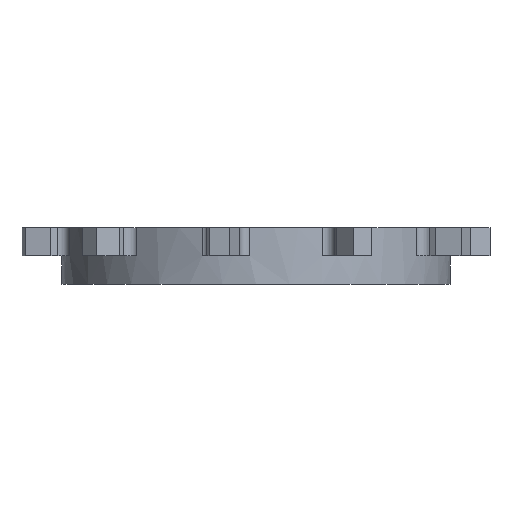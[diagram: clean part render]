
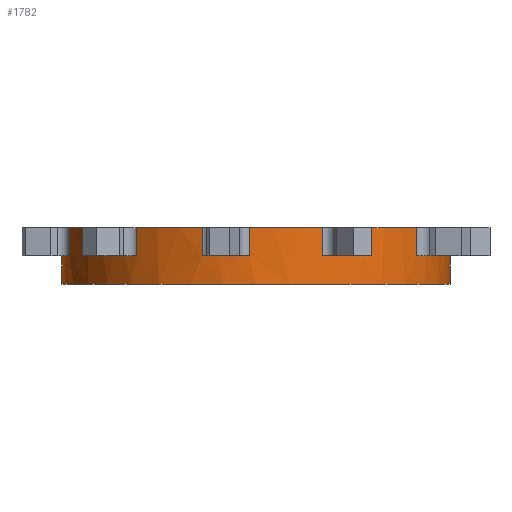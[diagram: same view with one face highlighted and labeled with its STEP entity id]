
A CAD part, front view. The second image highlights one B-rep face of the part: STEP entity #1782.
In plain terms, the highlighted cylindrical face has radius 69.987 mm (diameter 139.973 mm), a partial arc.
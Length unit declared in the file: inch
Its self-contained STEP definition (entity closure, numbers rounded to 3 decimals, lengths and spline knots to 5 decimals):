
#126=CARTESIAN_POINT('',(0.,0.,0.0025));
#127=DIRECTION('',(0.,0.,1.));
#128=DIRECTION('',(-0.788,-0.615,0.));
#129=AXIS2_PLACEMENT_3D('',#126,#127,#128);
#151=CARTESIAN_POINT('',(0.,0.,0.0025));
#152=DIRECTION('',(0.,0.,1.));
#153=DIRECTION('',(0.342,-0.94,0.));
#154=AXIS2_PLACEMENT_3D('',#151,#152,#153);
#176=CARTESIAN_POINT('',(0.,0.,0.0025));
#177=DIRECTION('',(0.,0.,1.));
#178=DIRECTION('',(0.829,-0.559,0.));
#179=AXIS2_PLACEMENT_3D('',#176,#177,#178);
#201=CARTESIAN_POINT('',(0.,0.,0.0025));
#202=DIRECTION('',(0.,0.,1.));
#203=DIRECTION('',(-0.276,-0.961,0.));
#204=AXIS2_PLACEMENT_3D('',#201,#202,#203);
#226=CARTESIAN_POINT('',(0.,0.,0.0025));
#227=DIRECTION('',(0.,0.,1.));
#228=DIRECTION('',(-0.999,-0.035,0.));
#229=AXIS2_PLACEMENT_3D('',#226,#227,#228);
#251=CARTESIAN_POINT('',(0.,0.,0.0025));
#252=DIRECTION('',(0.,0.,-1.));
#253=DIRECTION('',(1.,0.,0.));
#254=AXIS2_PLACEMENT_3D('',#251,#252,#253);
#286=CARTESIAN_POINT('',(0.,0.,0.0025));
#287=DIRECTION('',(0.,0.,1.));
#288=DIRECTION('',(-1.,0.,0.));
#289=AXIS2_PLACEMENT_3D('',#286,#287,#288);
#291=DIRECTION('',(0.,0.,-1.));
#292=VECTOR('',#291,0.405);
#293=CARTESIAN_POINT('',(2.75538,0.,0.0025));
#294=LINE('',#293,#292);
#295=DIRECTION('',(0.,0.,1.));
#296=VECTOR('',#295,0.405);
#297=CARTESIAN_POINT('',(-2.75538,0.,-0.4025));
#298=LINE('',#297,#296);
#299=CARTESIAN_POINT('',(0.,0.,0.4025));
#300=DIRECTION('',(0.,0.,1.));
#301=DIRECTION('',(-0.961,-0.276,0.));
#302=AXIS2_PLACEMENT_3D('',#299,#300,#301);
#304=CARTESIAN_POINT('',(0.,0.,0.4025));
#305=DIRECTION('',(0.,0.,1.));
#306=DIRECTION('',(-0.615,-0.788,0.));
#307=AXIS2_PLACEMENT_3D('',#304,#305,#306);
#309=CARTESIAN_POINT('',(0.,0.,0.4025));
#310=DIRECTION('',(0.,0.,1.));
#311=DIRECTION('',(-0.035,-0.999,0.));
#312=AXIS2_PLACEMENT_3D('',#309,#310,#311);
#314=CARTESIAN_POINT('',(0.,0.,0.4025));
#315=DIRECTION('',(0.,0.,1.));
#316=DIRECTION('',(0.559,-0.829,0.));
#317=AXIS2_PLACEMENT_3D('',#314,#315,#316);
#324=CARTESIAN_POINT('',(0.,0.,-0.4025));
#325=DIRECTION('',(0.,0.,1.));
#326=DIRECTION('',(-1.,0.,0.));
#327=AXIS2_PLACEMENT_3D('',#324,#325,#326);
#712=DIRECTION('',(0.,0.,-1.));
#713=VECTOR('',#712,0.4);
#714=CARTESIAN_POINT('',(2.28394,-1.54134,0.4025));
#715=LINE('',#714,#713);
#739=DIRECTION('',(0.,0.,-1.));
#740=VECTOR('',#739,0.4);
#741=CARTESIAN_POINT('',(1.54134,-2.28394,0.4025));
#742=LINE('',#741,#740);
#764=DIRECTION('',(0.,0.,-1.));
#765=VECTOR('',#764,0.4);
#766=CARTESIAN_POINT('',(0.94177,-2.58944,0.4025));
#767=LINE('',#766,#765);
#791=DIRECTION('',(0.,0.,-1.));
#792=VECTOR('',#791,0.4);
#793=CARTESIAN_POINT('',(-0.09549,-2.75372,0.4025));
#794=LINE('',#793,#792);
#816=DIRECTION('',(0.,0.,-1.));
#817=VECTOR('',#816,0.4);
#818=CARTESIAN_POINT('',(-0.76013,-2.64846,0.4025));
#819=LINE('',#818,#817);
#843=DIRECTION('',(0.,0.,-1.));
#844=VECTOR('',#843,0.4);
#845=CARTESIAN_POINT('',(-1.69585,-2.17168,0.4025));
#846=LINE('',#845,#844);
#868=DIRECTION('',(0.,0.,-1.));
#869=VECTOR('',#868,0.4);
#870=CARTESIAN_POINT('',(-2.17168,-1.69585,0.4025));
#871=LINE('',#870,#869);
#895=DIRECTION('',(0.,0.,-1.));
#896=VECTOR('',#895,0.4);
#897=CARTESIAN_POINT('',(-2.64846,-0.76013,0.4025));
#898=LINE('',#897,#896);
#1161=CARTESIAN_POINT('',(-2.75538,0.,0.0025));
#1162=CARTESIAN_POINT('',(-2.75372,-0.09549,0.0025));
#1163=VERTEX_POINT('',#1161);
#1164=VERTEX_POINT('',#1162);
#1165=CARTESIAN_POINT('',(-2.17168,-1.69585,0.0025));
#1166=CARTESIAN_POINT('',(-1.69585,-2.17168,0.0025));
#1167=VERTEX_POINT('',#1165);
#1168=VERTEX_POINT('',#1166);
#1169=CARTESIAN_POINT('',(0.94177,-2.58944,0.0025));
#1170=CARTESIAN_POINT('',(1.54134,-2.28394,0.0025));
#1171=VERTEX_POINT('',#1169);
#1172=VERTEX_POINT('',#1170);
#1173=CARTESIAN_POINT('',(2.28394,-1.54134,0.0025));
#1174=CARTESIAN_POINT('',(2.58944,-0.94177,0.0025));
#1175=VERTEX_POINT('',#1173);
#1176=VERTEX_POINT('',#1174);
#1177=CARTESIAN_POINT('',(-0.76013,-2.64846,0.0025));
#1178=CARTESIAN_POINT('',(-0.09549,-2.75372,0.0025));
#1179=VERTEX_POINT('',#1177);
#1180=VERTEX_POINT('',#1178);
#1181=CARTESIAN_POINT('',(-2.64846,-0.76013,0.0025));
#1182=VERTEX_POINT('',#1181);
#1183=CARTESIAN_POINT('',(2.75538,0.,0.0025));
#1184=VERTEX_POINT('',#1183);
#1221=CARTESIAN_POINT('',(2.75538,0.,-0.4025));
#1222=CARTESIAN_POINT('',(-2.75538,0.,-0.4025));
#1223=VERTEX_POINT('',#1221);
#1224=VERTEX_POINT('',#1222);
#1245=CARTESIAN_POINT('',(-2.64846,-0.76013,0.4025));
#1246=VERTEX_POINT('',#1245);
#1253=CARTESIAN_POINT('',(-1.69585,-2.17168,0.4025));
#1254=VERTEX_POINT('',#1253);
#1255=CARTESIAN_POINT('',(-2.17168,-1.69585,0.4025));
#1256=VERTEX_POINT('',#1255);
#1261=CARTESIAN_POINT('',(-0.09549,-2.75372,0.4025));
#1262=VERTEX_POINT('',#1261);
#1263=CARTESIAN_POINT('',(-0.76013,-2.64846,0.4025));
#1264=VERTEX_POINT('',#1263);
#1269=CARTESIAN_POINT('',(1.54134,-2.28394,0.4025));
#1270=VERTEX_POINT('',#1269);
#1271=CARTESIAN_POINT('',(0.94177,-2.58944,0.4025));
#1272=VERTEX_POINT('',#1271);
#1279=CARTESIAN_POINT('',(2.28394,-1.54134,0.4025));
#1280=VERTEX_POINT('',#1279);
#1740=CARTESIAN_POINT('',(0.,0.,-0.0025));
#1741=DIRECTION('',(0.,0.,1.));
#1742=DIRECTION('',(1.,0.,0.));
#1743=AXIS2_PLACEMENT_3D('',#1740,#1741,#1742);
#1744=CYLINDRICAL_SURFACE('',#1743,2.75538);
#1745=ORIENTED_EDGE('',*,*,#1690,.T.);
#1747=ORIENTED_EDGE('',*,*,#1746,.F.);
#1748=ORIENTED_EDGE('',*,*,#1686,.T.);
#1749=ORIENTED_EDGE('',*,*,#1735,.T.);
#1750=ORIENTED_EDGE('',*,*,#1662,.T.);
#1752=ORIENTED_EDGE('',*,*,#1751,.F.);
#1754=ORIENTED_EDGE('',*,*,#1753,.T.);
#1756=ORIENTED_EDGE('',*,*,#1755,.T.);
#1757=ORIENTED_EDGE('',*,*,#1566,.T.);
#1759=ORIENTED_EDGE('',*,*,#1758,.F.);
#1761=ORIENTED_EDGE('',*,*,#1760,.T.);
#1763=ORIENTED_EDGE('',*,*,#1762,.T.);
#1764=ORIENTED_EDGE('',*,*,#1638,.T.);
#1766=ORIENTED_EDGE('',*,*,#1765,.F.);
#1768=ORIENTED_EDGE('',*,*,#1767,.T.);
#1770=ORIENTED_EDGE('',*,*,#1769,.T.);
#1771=ORIENTED_EDGE('',*,*,#1590,.T.);
#1773=ORIENTED_EDGE('',*,*,#1772,.F.);
#1775=ORIENTED_EDGE('',*,*,#1774,.T.);
#1777=ORIENTED_EDGE('',*,*,#1776,.T.);
#1778=ORIENTED_EDGE('',*,*,#1614,.T.);
#1779=ORIENTED_EDGE('',*,*,#1692,.F.);
#1780=EDGE_LOOP('',(#1745,#1747,#1748,#1749,#1750,#1752,#1754,#1756,#1757,#1759,
#1761,#1763,#1764,#1766,#1768,#1770,#1771,#1773,#1775,#1777,#1778,#1779));
#1781=FACE_OUTER_BOUND('',#1780,.F.);
#1782=ADVANCED_FACE('',(#1781),#1744,.T.);
#130=CIRCLE('',#129,2.75538);
#155=CIRCLE('',#154,2.75538);
#180=CIRCLE('',#179,2.75538);
#205=CIRCLE('',#204,2.75538);
#230=CIRCLE('',#229,2.75538);
#255=CIRCLE('',#254,2.75538);
#290=CIRCLE('',#289,2.75538);
#303=CIRCLE('',#302,2.75538);
#308=CIRCLE('',#307,2.75538);
#313=CIRCLE('',#312,2.75538);
#318=CIRCLE('',#317,2.75538);
#328=CIRCLE('',#327,2.75538);
#1566=EDGE_CURVE('',#1167,#1168,#130,.T.);
#1590=EDGE_CURVE('',#1171,#1172,#155,.T.);
#1614=EDGE_CURVE('',#1175,#1176,#180,.T.);
#1638=EDGE_CURVE('',#1179,#1180,#205,.T.);
#1662=EDGE_CURVE('',#1164,#1182,#230,.T.);
#1686=EDGE_CURVE('',#1224,#1163,#298,.T.);
#1690=EDGE_CURVE('',#1184,#1223,#294,.T.);
#1692=EDGE_CURVE('',#1184,#1176,#255,.T.);
#1735=EDGE_CURVE('',#1163,#1164,#290,.T.);
#1746=EDGE_CURVE('',#1224,#1223,#328,.T.);
#1751=EDGE_CURVE('',#1246,#1182,#898,.T.);
#1753=EDGE_CURVE('',#1246,#1256,#303,.T.);
#1755=EDGE_CURVE('',#1256,#1167,#871,.T.);
#1758=EDGE_CURVE('',#1254,#1168,#846,.T.);
#1760=EDGE_CURVE('',#1254,#1264,#308,.T.);
#1762=EDGE_CURVE('',#1264,#1179,#819,.T.);
#1765=EDGE_CURVE('',#1262,#1180,#794,.T.);
#1767=EDGE_CURVE('',#1262,#1272,#313,.T.);
#1769=EDGE_CURVE('',#1272,#1171,#767,.T.);
#1772=EDGE_CURVE('',#1270,#1172,#742,.T.);
#1774=EDGE_CURVE('',#1270,#1280,#318,.T.);
#1776=EDGE_CURVE('',#1280,#1175,#715,.T.);
